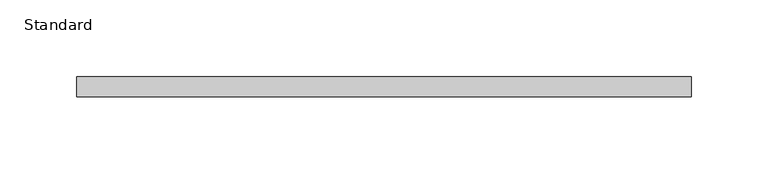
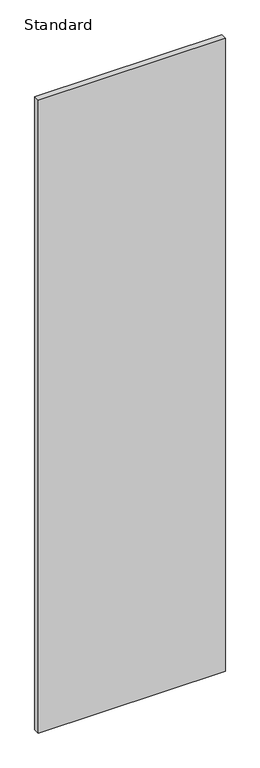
"""IFC4 building model written with IfcOpenShell, lengths in millimetres: furniture geometry, X_Locker-Duracube-Panel : Standard."""

from ifc_helpers import new_model, si_unit, origin, origin_with_axes, place, context, project, spatial, polyline, outline, extrude, source, transform, mapped, element, save


def standard_fa82621c(model_context):
    return source(origin(), model_context, "Body", "SweptSolid", [
        extrude(outline(polyline([(244.7003264, -13.0), (-155.2996736, -13.0), (-155.2996736, 0.0), (244.7003264, 0.0), (244.7003264, -13.0)])), origin_with_axes(), (0.0, 0.0, 1.0), 1430.0),
    ])


if __name__ == "__main__":
    model = new_model("IFC4")
    model_context = context("Model", 3, world=origin())
    ifc_project = project(units=[si_unit("LENGTHUNIT", "METRE", prefix="MILLI")], contexts=[model_context])
    site = spatial("IfcSite", under=ifc_project)
    building = spatial("IfcBuilding", under=site)
    placement = place(None, origin())
    standard_shape = standard_fa82621c(model_context)
    element("IfcFurniture", 1, ObjectType="X_Locker-Duracube-Panel : Standard", at=placement, inside=building, context=model_context, shape_type="MappedRepresentation", body=[
        mapped(standard_shape, transform((0.0, 0.0, 0.0), x_axis=(1.0, 0.0, 0.0), y_axis=(0.0, 1.0, 0.0), z_axis=(0.0, 0.0, 1.0))),
    ])
    save(model, "model.ifc")
